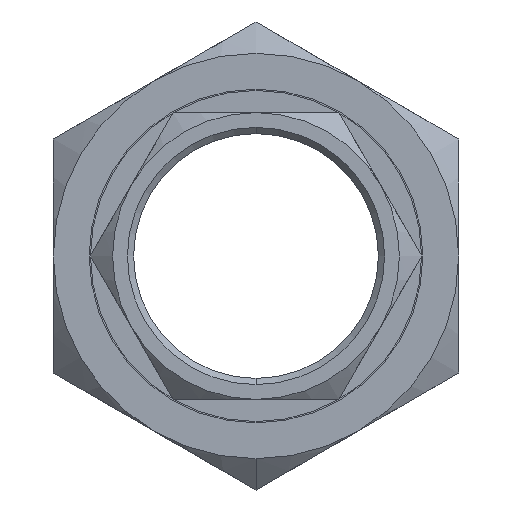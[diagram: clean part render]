
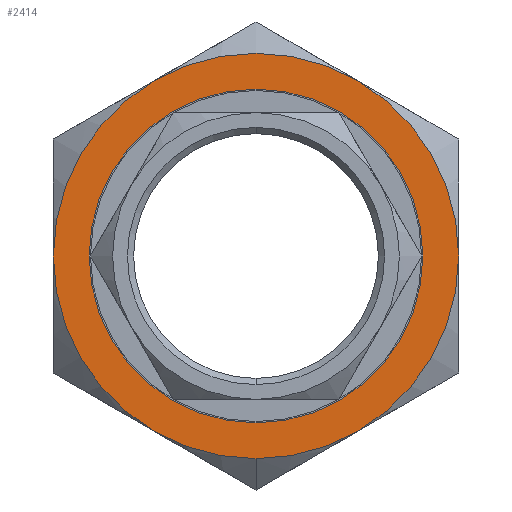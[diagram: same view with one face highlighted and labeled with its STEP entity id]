
A CAD part, front view. The second image highlights one B-rep face of the part: STEP entity #2414.
In plain terms, the highlighted planar face has unit normal (0, -1, 0).
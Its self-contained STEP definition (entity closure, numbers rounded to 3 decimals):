
#51 = VERTEX_POINT ( 'NONE', #199 ) ;
#61 = DIRECTION ( 'NONE',  ( 0., 1., 0. ) ) ;
#69 = ORIENTED_EDGE ( 'NONE', *, *, #2555, .T. ) ;
#93 = CARTESIAN_POINT ( 'NONE',  ( 16.25, -13., 28.146 ) ) ;
#173 = CIRCLE ( 'NONE', #739, 32.5 ) ;
#183 = FACE_OUTER_BOUND ( 'NONE', #2704, .T. ) ;
#199 = CARTESIAN_POINT ( 'NONE',  ( 0., -13., -32.5 ) ) ;
#205 = DIRECTION ( 'NONE',  ( 0., 0., 1. ) ) ;
#235 = AXIS2_PLACEMENT_3D ( 'NONE', #2271, #2006, #1738 ) ;
#243 = EDGE_CURVE ( 'NONE', #563, #345, #2319, .T. ) ;
#259 = VERTEX_POINT ( 'NONE', #2553 ) ;
#316 = DIRECTION ( 'NONE',  ( 0., 0., 1. ) ) ;
#341 = VERTEX_POINT ( 'NONE', #1813 ) ;
#345 = VERTEX_POINT ( 'NONE', #745 ) ;
#473 = EDGE_CURVE ( 'NONE', #2524, #51, #2049, .T. ) ;
#492 = DIRECTION ( 'NONE',  ( 0., 1., 0. ) ) ;
#509 = ORIENTED_EDGE ( 'NONE', *, *, #1329, .T. ) ;
#560 = DIRECTION ( 'NONE',  ( 0., 0., 1. ) ) ;
#563 = VERTEX_POINT ( 'NONE', #1128 ) ;
#620 = DIRECTION ( 'NONE',  ( 0., 1., 0. ) ) ;
#632 = ORIENTED_EDGE ( 'NONE', *, *, #870, .T. ) ;
#653 = CARTESIAN_POINT ( 'NONE',  ( 0., -13., 0. ) ) ;
#739 = AXIS2_PLACEMENT_3D ( 'NONE', #1837, #1561, #1313 ) ;
#745 = CARTESIAN_POINT ( 'NONE',  ( -32.5, -13., 0. ) ) ;
#774 = CARTESIAN_POINT ( 'NONE',  ( 0., -13., 0. ) ) ;
#780 = CIRCLE ( 'NONE', #1578, 26.758 ) ;
#820 = AXIS2_PLACEMENT_3D ( 'NONE', #899, #620, #316 ) ;
#849 = DIRECTION ( 'NONE',  ( 0., 1., 0. ) ) ;
#870 = EDGE_CURVE ( 'NONE', #1955, #259, #780, .T. ) ;
#899 = CARTESIAN_POINT ( 'NONE',  ( 0., -13., 0. ) ) ;
#905 = CARTESIAN_POINT ( 'NONE',  ( 16.25, -13., -28.146 ) ) ;
#928 = DIRECTION ( 'NONE',  ( 0., 0., 1. ) ) ;
#984 = CIRCLE ( 'NONE', #1116, 32.5 ) ;
#1075 = ORIENTED_EDGE ( 'NONE', *, *, #243, .F. ) ;
#1112 = CARTESIAN_POINT ( 'NONE',  ( 0., -13., 0. ) ) ;
#1116 = AXIS2_PLACEMENT_3D ( 'NONE', #2571, #1490, #1233 ) ;
#1122 = VERTEX_POINT ( 'NONE', #93 ) ;
#1128 = CARTESIAN_POINT ( 'NONE',  ( -16.25, -13., -28.146 ) ) ;
#1184 = DIRECTION ( 'NONE',  ( 0., 1., 0. ) ) ;
#1185 = CARTESIAN_POINT ( 'NONE',  ( 0., -13., -26.758 ) ) ;
#1193 = CIRCLE ( 'NONE', #1724, 32.5 ) ;
#1206 = EDGE_CURVE ( 'NONE', #2226, #1122, #984, .T. ) ;
#1233 = DIRECTION ( 'NONE',  ( 0., 0., 1. ) ) ;
#1313 = DIRECTION ( 'NONE',  ( 0., 0., -1. ) ) ;
#1315 = CARTESIAN_POINT ( 'NONE',  ( -16.25, -13., 28.146 ) ) ;
#1329 = EDGE_CURVE ( 'NONE', #259, #1955, #2380, .T. ) ;
#1346 = ORIENTED_EDGE ( 'NONE', *, *, #2439, .F. ) ;
#1402 = CIRCLE ( 'NONE', #1518, 32.5 ) ;
#1425 = DIRECTION ( 'NONE',  ( 0., 0., 1. ) ) ;
#1459 = CARTESIAN_POINT ( 'NONE',  ( 0., -13., 0. ) ) ;
#1490 = DIRECTION ( 'NONE',  ( 0., 1., 0. ) ) ;
#1503 = ORIENTED_EDGE ( 'NONE', *, *, #1570, .F. ) ;
#1518 = AXIS2_PLACEMENT_3D ( 'NONE', #1459, #1184, #928 ) ;
#1533 = DIRECTION ( 'NONE',  ( 0., 0., 1. ) ) ;
#1561 = DIRECTION ( 'NONE',  ( 0., -1., 0. ) ) ;
#1570 = EDGE_CURVE ( 'NONE', #51, #563, #1402, .T. ) ;
#1575 = EDGE_CURVE ( 'NONE', #345, #2226, #1193, .T. ) ;
#1578 = AXIS2_PLACEMENT_3D ( 'NONE', #774, #492, #205 ) ;
#1632 = ORIENTED_EDGE ( 'NONE', *, *, #1575, .F. ) ;
#1684 = DIRECTION ( 'NONE',  ( 0., 1., 0. ) ) ;
#1724 = AXIS2_PLACEMENT_3D ( 'NONE', #653, #61, #2461 ) ;
#1738 = DIRECTION ( 'NONE',  ( 0., 0., 1. ) ) ;
#1800 = DIRECTION ( 'NONE',  ( 0., 1., 0. ) ) ;
#1813 = CARTESIAN_POINT ( 'NONE',  ( 32.5, -13., 0. ) ) ;
#1833 = EDGE_LOOP ( 'NONE', ( #632, #509 ) ) ;
#1837 = CARTESIAN_POINT ( 'NONE',  ( 0., -13., 0. ) ) ;
#1939 = CARTESIAN_POINT ( 'NONE',  ( 0., -13., 0. ) ) ;
#1955 = VERTEX_POINT ( 'NONE', #1185 ) ;
#2006 = DIRECTION ( 'NONE',  ( 0., 1., 0. ) ) ;
#2022 = ORIENTED_EDGE ( 'NONE', *, *, #1206, .F. ) ;
#2049 = CIRCLE ( 'NONE', #2121, 32.5 ) ;
#2065 = CARTESIAN_POINT ( 'NONE',  ( 0., -13., 0. ) ) ;
#2121 = AXIS2_PLACEMENT_3D ( 'NONE', #1112, #849, #560 ) ;
#2146 = AXIS2_PLACEMENT_3D ( 'NONE', #2065, #1800, #1533 ) ;
#2207 = CIRCLE ( 'NONE', #2568, 32.5 ) ;
#2226 = VERTEX_POINT ( 'NONE', #1315 ) ;
#2271 = CARTESIAN_POINT ( 'NONE',  ( 0., -13., 0. ) ) ;
#2319 = CIRCLE ( 'NONE', #2146, 32.5 ) ;
#2337 = ORIENTED_EDGE ( 'NONE', *, *, #473, .F. ) ;
#2380 = CIRCLE ( 'NONE', #820, 26.758 ) ;
#2414 = ADVANCED_FACE ( 'NONE', ( #183, #2651 ), #2554, .F. ) ;
#2439 = EDGE_CURVE ( 'NONE', #1122, #341, #2207, .T. ) ;
#2461 = DIRECTION ( 'NONE',  ( 0., 0., 1. ) ) ;
#2524 = VERTEX_POINT ( 'NONE', #905 ) ;
#2553 = CARTESIAN_POINT ( 'NONE',  ( 0., -13., 26.758 ) ) ;
#2554 = PLANE ( 'NONE',  #235 ) ;
#2555 = EDGE_CURVE ( 'NONE', #2524, #341, #173, .T. ) ;
#2568 = AXIS2_PLACEMENT_3D ( 'NONE', #1939, #1684, #1425 ) ;
#2571 = CARTESIAN_POINT ( 'NONE',  ( 0., -13., 0. ) ) ;
#2651 = FACE_BOUND ( 'NONE', #1833, .T. ) ;
#2704 = EDGE_LOOP ( 'NONE', ( #1346, #2022, #1632, #1075, #1503, #2337, #69 ) ) ;
